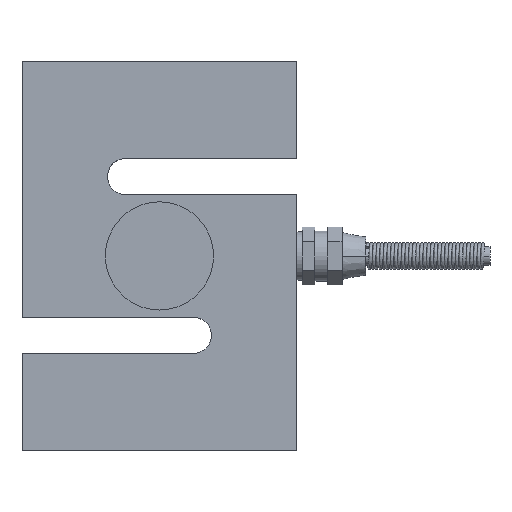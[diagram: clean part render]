
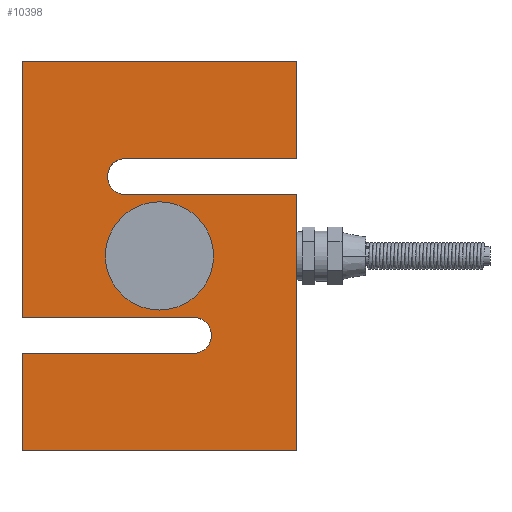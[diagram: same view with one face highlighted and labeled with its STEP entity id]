
A CAD part, top view. The second image highlights one B-rep face of the part: STEP entity #10398.
In plain terms, the highlighted planar face has unit normal (0, 0, 1).
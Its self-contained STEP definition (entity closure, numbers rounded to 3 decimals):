
#421 = ORIENTED_EDGE ( 'NONE', *, *, #4125, .T. ) ;
#1344 = DIRECTION ( 'NONE',  ( 0., 0., 1. ) ) ;
#1347 = CARTESIAN_POINT ( 'NONE',  ( -47.5, -32., 31.8 ) ) ;
#1349 = PLANE ( 'NONE',  #9899 ) ;
#1351 = DIRECTION ( 'NONE',  ( 1., 0., 0. ) ) ;
#1964 = DIRECTION ( 'NONE',  ( 0., 0., 1. ) ) ;
#2546 = DIRECTION ( 'NONE',  ( 1., 0., 0. ) ) ;
#2580 = CARTESIAN_POINT ( 'NONE',  ( -38.1, -54., 31.8 ) ) ;
#3688 = ORIENTED_EDGE ( 'NONE', *, *, #4094, .T. ) ;
#3789 = AXIS2_PLACEMENT_3D ( 'NONE', #9858, #9857, #9856 ) ;
#3795 = AXIS2_PLACEMENT_3D ( 'NONE', #10025, #10024, #10023 ) ;
#3800 = EDGE_CURVE ( 'NONE', #4863, #4053, #4301, .T. ) ;
#3821 = AXIS2_PLACEMENT_3D ( 'NONE', #2580, #1964, #2546 ) ;
#3833 = AXIS2_PLACEMENT_3D ( 'NONE', #5209, #5211, #5210 ) ;
#3851 = EDGE_CURVE ( 'NONE', #4062, #4035, #4335, .T. ) ;
#3918 = FACE_OUTER_BOUND ( 'NONE', #4983, .T. ) ;
#3935 = FACE_BOUND ( 'NONE', #4965, .T. ) ;
#4024 = ORIENTED_EDGE ( 'NONE', *, *, #4145, .T. ) ;
#4035 = VERTEX_POINT ( 'NONE', #10096 ) ;
#4053 = VERTEX_POINT ( 'NONE', #10079 ) ;
#4054 = VERTEX_POINT ( 'NONE', #10078 ) ;
#4062 = VERTEX_POINT ( 'NONE', #10070 ) ;
#4094 = EDGE_CURVE ( 'NONE', #4904, #4863, #4397, .T. ) ;
#4107 = EDGE_CURVE ( 'NONE', #4897, #4899, #4416, .T. ) ;
#4109 = EDGE_CURVE ( 'NONE', #4889, #4897, #4413, .T. ) ;
#4125 = EDGE_CURVE ( 'NONE', #4864, #4865, #4449, .T. ) ;
#4145 = EDGE_CURVE ( 'NONE', #4053, #4892, #4481, .T. ) ;
#4148 = EDGE_CURVE ( 'NONE', #4899, #4900, #4460, .T. ) ;
#4156 = EDGE_CURVE ( 'NONE', #4892, #4893, #4498, .T. ) ;
#4170 = EDGE_CURVE ( 'NONE', #4054, #4884, #4509, .T. ) ;
#4174 = EDGE_CURVE ( 'NONE', #4893, #4054, #4530, .T. ) ;
#4178 = EDGE_CURVE ( 'NONE', #4884, #4889, #4538, .T. ) ;
#4179 = EDGE_CURVE ( 'NONE', #4865, #4904, #4540, .T. ) ;
#4181 = EDGE_CURVE ( 'NONE', #4035, #4062, #4544, .T. ) ;
#4190 = EDGE_CURVE ( 'NONE', #4900, #4864, #4523, .T. ) ;
#4301 = CIRCLE ( 'NONE', #3833, 5. ) ;
#4335 = CIRCLE ( 'NONE', #3821, 15. ) ;
#4397 = CIRCLE ( 'NONE', #3795, 5. ) ;
#4413 = CIRCLE ( 'NONE', #3789, 5. ) ;
#4416 = LINE ( 'NONE', #9864, #4419 ) ;
#4419 = VECTOR ( 'NONE', #9863, 1000. ) ;
#4449 = LINE ( 'NONE', #9823, #4452 ) ;
#4452 = VECTOR ( 'NONE', #9822, 1000. ) ;
#4460 = LINE ( 'NONE', #9772, #4489 ) ;
#4481 = LINE ( 'NONE', #9775, #4484 ) ;
#4484 = VECTOR ( 'NONE', #9774, 1000. ) ;
#4489 = VECTOR ( 'NONE', #9767, 1000. ) ;
#4498 = LINE ( 'NONE', #9745, #4500 ) ;
#4500 = VECTOR ( 'NONE', #9744, 1000. ) ;
#4509 = LINE ( 'NONE', #9711, #4526 ) ;
#4523 = LINE ( 'NONE', #9680, #4563 ) ;
#4526 = VECTOR ( 'NONE', #9706, 1000. ) ;
#4530 = LINE ( 'NONE', #9700, #4533 ) ;
#4533 = VECTOR ( 'NONE', #9699, 1000. ) ;
#4538 = LINE ( 'NONE', #9692, #4541 ) ;
#4540 = LINE ( 'NONE', #9690, #4543 ) ;
#4541 = VECTOR ( 'NONE', #9691, 1000. ) ;
#4543 = VECTOR ( 'NONE', #9689, 1000. ) ;
#4544 = CIRCLE ( 'NONE', #9921, 15. ) ;
#4563 = VECTOR ( 'NONE', #9663, 1000. ) ;
#4863 = VERTEX_POINT ( 'NONE', #9681 ) ;
#4864 = VERTEX_POINT ( 'NONE', #9665 ) ;
#4865 = VERTEX_POINT ( 'NONE', #9655 ) ;
#4884 = VERTEX_POINT ( 'NONE', #9639 ) ;
#4889 = VERTEX_POINT ( 'NONE', #9634 ) ;
#4892 = VERTEX_POINT ( 'NONE', #9631 ) ;
#4893 = VERTEX_POINT ( 'NONE', #9630 ) ;
#4897 = VERTEX_POINT ( 'NONE', #9626 ) ;
#4899 = VERTEX_POINT ( 'NONE', #9624 ) ;
#4900 = VERTEX_POINT ( 'NONE', #9623 ) ;
#4904 = VERTEX_POINT ( 'NONE', #9619 ) ;
#4965 = EDGE_LOOP ( 'NONE', ( #9933, #9934 ) ) ;
#4983 = EDGE_LOOP ( 'NONE', ( #5088, #5087, #5375, #5077, #5082, #5383, #9990, #5075, #421, #9931, #3688, #9932, #4024 ) ) ;
#5075 = ORIENTED_EDGE ( 'NONE', *, *, #4190, .T. ) ;
#5077 = ORIENTED_EDGE ( 'NONE', *, *, #4178, .T. ) ;
#5082 = ORIENTED_EDGE ( 'NONE', *, *, #4109, .T. ) ;
#5087 = ORIENTED_EDGE ( 'NONE', *, *, #4174, .T. ) ;
#5088 = ORIENTED_EDGE ( 'NONE', *, *, #4156, .T. ) ;
#5209 = CARTESIAN_POINT ( 'NONE',  ( -47.5, -32., 31.8 ) ) ;
#5210 = DIRECTION ( 'NONE',  ( 1., 0., 0. ) ) ;
#5211 = DIRECTION ( 'NONE',  ( 0., 0., -1. ) ) ;
#5375 = ORIENTED_EDGE ( 'NONE', *, *, #4170, .T. ) ;
#5383 = ORIENTED_EDGE ( 'NONE', *, *, #4107, .T. ) ;
#9619 = CARTESIAN_POINT ( 'NONE',  ( -47.5, -37., 31.8 ) ) ;
#9623 = CARTESIAN_POINT ( 'NONE',  ( -76.2, -108., 31.8 ) ) ;
#9624 = CARTESIAN_POINT ( 'NONE',  ( -76.2, -81., 31.8 ) ) ;
#9626 = CARTESIAN_POINT ( 'NONE',  ( -28.7, -81., 31.8 ) ) ;
#9630 = CARTESIAN_POINT ( 'NONE',  ( 0., 0., 31.8 ) ) ;
#9631 = CARTESIAN_POINT ( 'NONE',  ( 0., -27., 31.8 ) ) ;
#9634 = CARTESIAN_POINT ( 'NONE',  ( -28.7, -71., 31.8 ) ) ;
#9639 = CARTESIAN_POINT ( 'NONE',  ( -76.2, -71., 31.8 ) ) ;
#9655 = CARTESIAN_POINT ( 'NONE',  ( 0., -37., 31.8 ) ) ;
#9663 = DIRECTION ( 'NONE',  ( 1., 0., 0. ) ) ;
#9665 = CARTESIAN_POINT ( 'NONE',  ( 0., -108., 31.8 ) ) ;
#9680 = CARTESIAN_POINT ( 'NONE',  ( -76.2, -108., 31.8 ) ) ;
#9681 = CARTESIAN_POINT ( 'NONE',  ( -52.5, -32., 31.8 ) ) ;
#9682 = DIRECTION ( 'NONE',  ( 1., 0., 0. ) ) ;
#9683 = DIRECTION ( 'NONE',  ( 0., 0., 1. ) ) ;
#9684 = CARTESIAN_POINT ( 'NONE',  ( -38.1, -54., 31.8 ) ) ;
#9689 = DIRECTION ( 'NONE',  ( -1., 0., 0. ) ) ;
#9690 = CARTESIAN_POINT ( 'NONE',  ( -47.5, -37., 31.8 ) ) ;
#9691 = DIRECTION ( 'NONE',  ( 1., 0., 0. ) ) ;
#9692 = CARTESIAN_POINT ( 'NONE',  ( -76.2, -71., 31.8 ) ) ;
#9699 = DIRECTION ( 'NONE',  ( -1., 0., 0. ) ) ;
#9700 = CARTESIAN_POINT ( 'NONE',  ( 0., 0., 31.8 ) ) ;
#9706 = DIRECTION ( 'NONE',  ( 0., -1., 0. ) ) ;
#9711 = CARTESIAN_POINT ( 'NONE',  ( -76.2, 0., 31.8 ) ) ;
#9744 = DIRECTION ( 'NONE',  ( 0., 1., 0. ) ) ;
#9745 = CARTESIAN_POINT ( 'NONE',  ( 0., 0., 31.8 ) ) ;
#9767 = DIRECTION ( 'NONE',  ( 0., -1., 0. ) ) ;
#9772 = CARTESIAN_POINT ( 'NONE',  ( -76.2, -81., 31.8 ) ) ;
#9774 = DIRECTION ( 'NONE',  ( 1., 0., 0. ) ) ;
#9775 = CARTESIAN_POINT ( 'NONE',  ( 0., -27., 31.8 ) ) ;
#9822 = DIRECTION ( 'NONE',  ( 0., 1., 0. ) ) ;
#9823 = CARTESIAN_POINT ( 'NONE',  ( 0., -37., 31.8 ) ) ;
#9856 = DIRECTION ( 'NONE',  ( -1., 0., 0. ) ) ;
#9857 = DIRECTION ( 'NONE',  ( 0., 0., -1. ) ) ;
#9858 = CARTESIAN_POINT ( 'NONE',  ( -28.7, -76., 31.8 ) ) ;
#9863 = DIRECTION ( 'NONE',  ( -1., 0., 0. ) ) ;
#9864 = CARTESIAN_POINT ( 'NONE',  ( -28.7, -81., 31.8 ) ) ;
#9899 = AXIS2_PLACEMENT_3D ( 'NONE', #1347, #1344, #1351 ) ;
#9921 = AXIS2_PLACEMENT_3D ( 'NONE', #9684, #9683, #9682 ) ;
#9931 = ORIENTED_EDGE ( 'NONE', *, *, #4179, .T. ) ;
#9932 = ORIENTED_EDGE ( 'NONE', *, *, #3800, .T. ) ;
#9933 = ORIENTED_EDGE ( 'NONE', *, *, #4181, .F. ) ;
#9934 = ORIENTED_EDGE ( 'NONE', *, *, #3851, .F. ) ;
#9990 = ORIENTED_EDGE ( 'NONE', *, *, #4148, .T. ) ;
#10023 = DIRECTION ( 'NONE',  ( 1., 0., 0. ) ) ;
#10024 = DIRECTION ( 'NONE',  ( 0., 0., -1. ) ) ;
#10025 = CARTESIAN_POINT ( 'NONE',  ( -47.5, -32., 31.8 ) ) ;
#10070 = CARTESIAN_POINT ( 'NONE',  ( -53.1, -54., 31.8 ) ) ;
#10078 = CARTESIAN_POINT ( 'NONE',  ( -76.2, 0., 31.8 ) ) ;
#10079 = CARTESIAN_POINT ( 'NONE',  ( -47.5, -27., 31.8 ) ) ;
#10096 = CARTESIAN_POINT ( 'NONE',  ( -23.1, -54., 31.8 ) ) ;
#10398 = ADVANCED_FACE ( 'NONE', ( #3935, #3918 ), #1349, .T. ) ;
